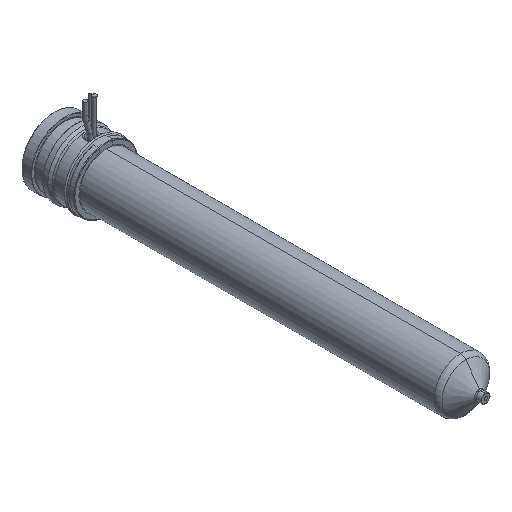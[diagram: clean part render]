
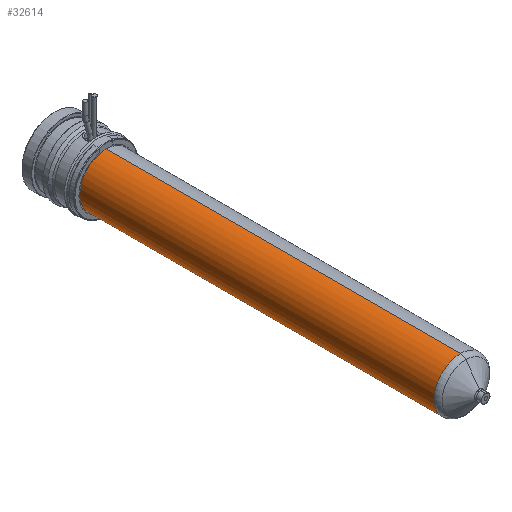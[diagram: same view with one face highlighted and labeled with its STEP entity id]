
A CAD part, isometric view. The second image highlights one B-rep face of the part: STEP entity #32614.
In plain terms, the highlighted cylindrical face has radius 12 mm (diameter 24 mm), a partial arc.
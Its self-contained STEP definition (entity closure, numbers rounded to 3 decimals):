
#32259=CARTESIAN_POINT('',(0.,-24.,0.));
#32260=DIRECTION('',(0.,1.,0.));
#32261=DIRECTION('',(0.,0.,-1.));
#32262=AXIS2_PLACEMENT_3D('',#32259,#32260,#32261);
#32267=DIRECTION('',(0.,1.,0.));
#32268=VECTOR('',#32267,160.671);
#32269=CARTESIAN_POINT('',(0.,-184.671,12.));
#32270=LINE('',#32269,#32268);
#32282=DIRECTION('',(0.,1.,0.));
#32283=VECTOR('',#32282,160.671);
#32284=CARTESIAN_POINT('',(0.,-184.671,-12.));
#32285=LINE('',#32284,#32283);
#32313=CARTESIAN_POINT('',(0.,-184.671,0.));
#32314=DIRECTION('',(0.,-1.,0.));
#32315=DIRECTION('',(0.,0.,1.));
#32316=AXIS2_PLACEMENT_3D('',#32313,#32314,#32315);
#32503=CARTESIAN_POINT('',(0.,-184.671,12.));
#32504=CARTESIAN_POINT('',(0.,-24.,12.));
#32505=VERTEX_POINT('',#32503);
#32506=VERTEX_POINT('',#32504);
#32511=CARTESIAN_POINT('',(0.,-184.671,-12.));
#32512=CARTESIAN_POINT('',(0.,-24.,-12.));
#32513=VERTEX_POINT('',#32511);
#32514=VERTEX_POINT('',#32512);
#32600=CARTESIAN_POINT('',(0.,-11.2,0.));
#32601=DIRECTION('',(0.,-1.,0.));
#32602=DIRECTION('',(0.,0.,1.));
#32603=AXIS2_PLACEMENT_3D('',#32600,#32601,#32602);
#32604=CYLINDRICAL_SURFACE('',#32603,12.);
#32606=ORIENTED_EDGE('',*,*,#32605,.F.);
#32608=ORIENTED_EDGE('',*,*,#32607,.T.);
#32610=ORIENTED_EDGE('',*,*,#32609,.T.);
#32611=ORIENTED_EDGE('',*,*,#32593,.T.);
#32612=EDGE_LOOP('',(#32606,#32608,#32610,#32611));
#32613=FACE_OUTER_BOUND('',#32612,.F.);
#32614=ADVANCED_FACE('',(#32613),#32604,.T.);
#32263=CIRCLE('',#32262,12.);
#32317=CIRCLE('',#32316,12.);
#32593=EDGE_CURVE('',#32514,#32506,#32263,.T.);
#32605=EDGE_CURVE('',#32505,#32506,#32270,.T.);
#32607=EDGE_CURVE('',#32505,#32513,#32317,.T.);
#32609=EDGE_CURVE('',#32513,#32514,#32285,.T.);
